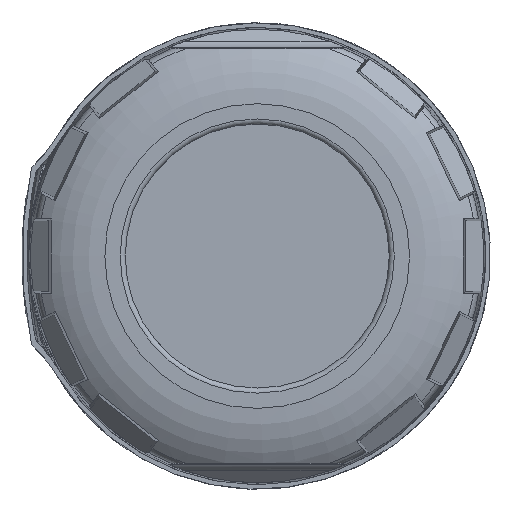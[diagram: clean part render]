
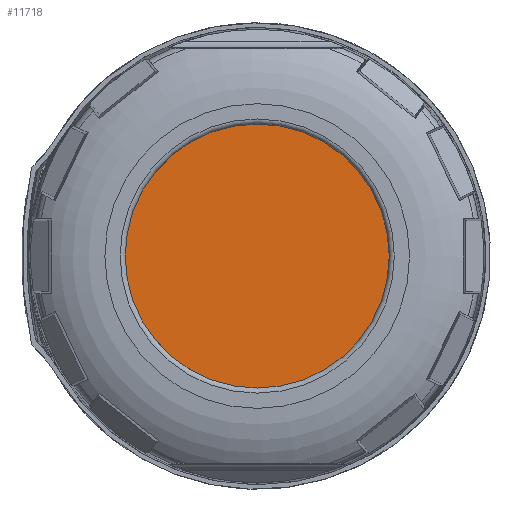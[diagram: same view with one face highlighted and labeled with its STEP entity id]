
A CAD part, left-side view. The second image highlights one B-rep face of the part: STEP entity #11718.
In plain terms, the highlighted planar face has unit normal (-1, 0, 0).
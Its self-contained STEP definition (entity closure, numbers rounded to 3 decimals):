
#740=CIRCLE('',#12299,13.008);
#1801=FACE_OUTER_BOUND('',#2367,.T.);
#2367=EDGE_LOOP('',(#8064));
#4323=VERTEX_POINT('',#17576);
#5865=EDGE_CURVE('',#4323,#4323,#740,.T.);
#8064=ORIENTED_EDGE('',*,*,#5865,.F.);
#10900=PLANE('',#12298);
#11718=ADVANCED_FACE('',(#1801),#10900,.T.);
#12298=AXIS2_PLACEMENT_3D('',#17575,#13981,#13982);
#12299=AXIS2_PLACEMENT_3D('',#17577,#13983,#13984);
#13981=DIRECTION('center_axis',(-1.,0.,0.));
#13982=DIRECTION('ref_axis',(0.,-1.,0.));
#13983=DIRECTION('center_axis',(1.,0.,0.));
#13984=DIRECTION('ref_axis',(0.,1.,0.));
#17575=CARTESIAN_POINT('Origin',(-25.85,23.135,-23.135));
#17576=CARTESIAN_POINT('',(-25.85,-13.008,0.));
#17577=CARTESIAN_POINT('Origin',(-25.85,0.,0.));
